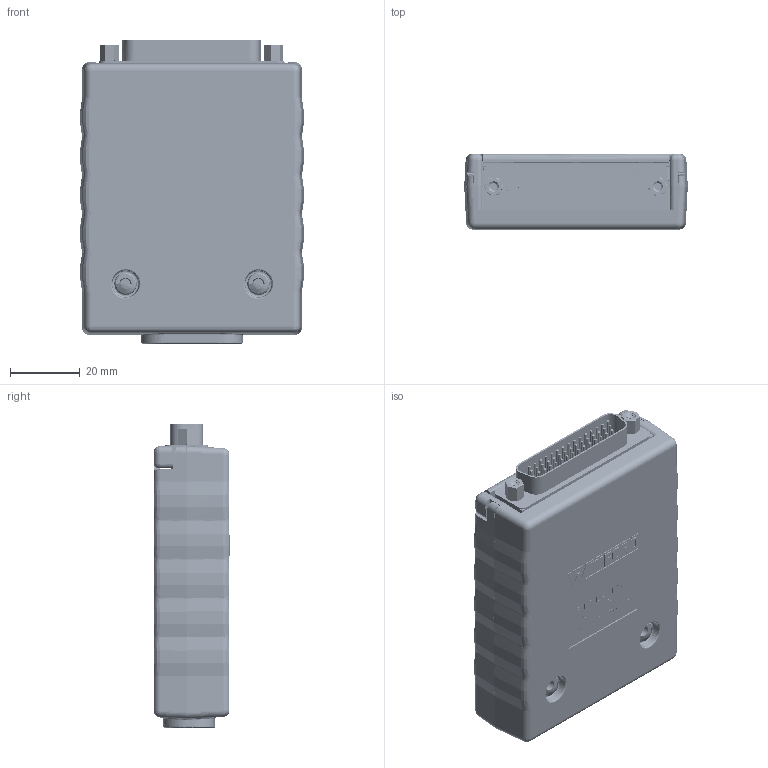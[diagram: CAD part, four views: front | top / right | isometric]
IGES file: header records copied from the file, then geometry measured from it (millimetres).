
Start section: SolidWorks IGES file using analytic representation for surfaces
Global section: file name: W:\end-user\products\brk\brke\brkead44hd\brkead44hdm\3dmodel\rev_a\render\brkead44hdm-r_rev_a.igs; native system: SolidWorks 2018; preprocessor: SolidWorks 2018; author: leviroy; date: 250716.151138; units: inch
Bounding box: 64.19 x 22 x 86.99 mm (x, y, z)
Surface area: 58994.6 mm2 (no closed solid volume)
Topology: 0 solids, 0 shells, 12290 faces, 96219 edges, 96168 vertices
Faces by surface type: bspline 9558, revolution 2732
